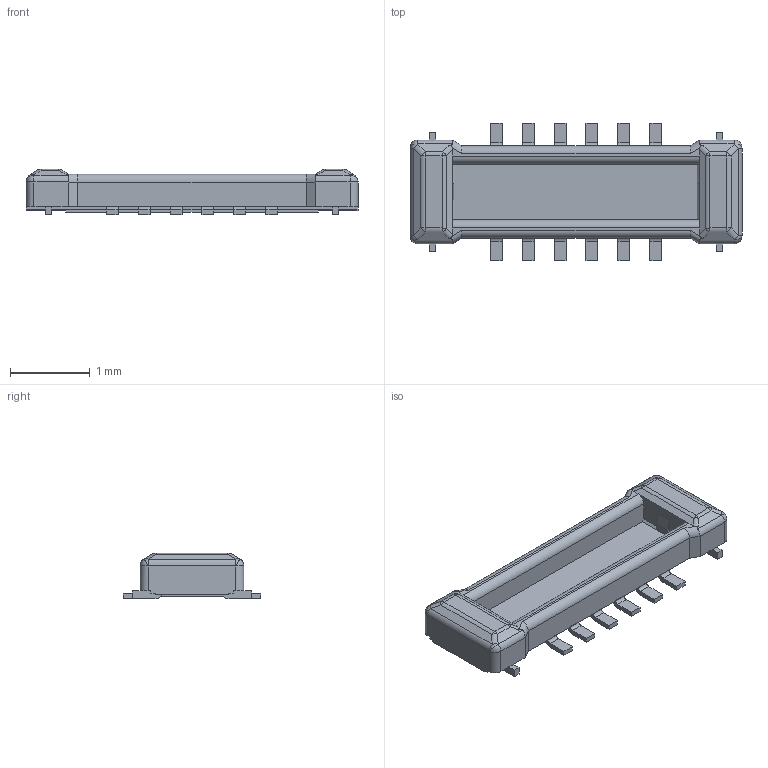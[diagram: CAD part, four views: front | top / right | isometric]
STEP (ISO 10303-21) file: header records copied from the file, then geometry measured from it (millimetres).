
FILE_DESCRIPTION(('CATIA V5 STEP Exchange'),'2;1');
FILE_NAME('C:\Users\user\Desktop\5807_STEP\10_5807_012_002_829_+.stp','2016-03-29T05:33:32+00:00',('none'),('none'),'CATIA Version 5-6 Release 2014 SP4','CATIA V5 STEP AP203','none');
FILE_SCHEMA(('CONFIG_CONTROL_DESIGN'));
Length unit declared in the file: millimetre
Products named in the file (1): Product1_AllCATPart
Bounding box: 4.16 x 1.72 x 0.57 mm (x, y, z)
Volume: 1.6 mm3; surface area: 19.3 mm2
Topology: 1 solids, 1 shells, 230 faces, 612 edges, 372 vertices
Faces by surface type: plane 156, cylinder 54, sphere 12, bspline 4, extrusion 4
Entity records: 6648 total; most frequent: CARTESIAN_POINT 1538, ORIENTED_EDGE 1200, DIRECTION 794, EDGE_CURVE 600, VECTOR 484, LINE 480, VERTEX_POINT 372, ADVANCED_FACE 230
